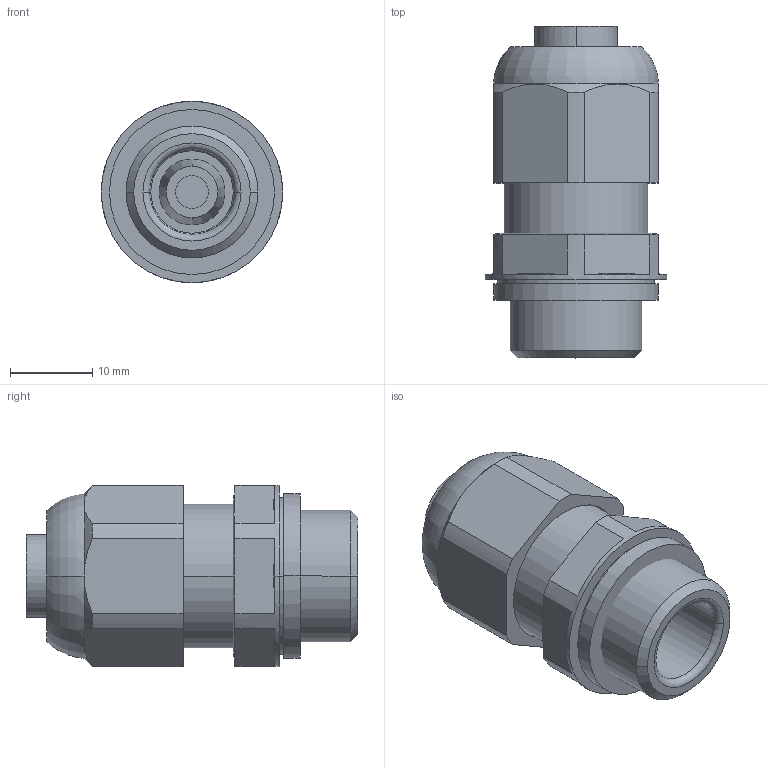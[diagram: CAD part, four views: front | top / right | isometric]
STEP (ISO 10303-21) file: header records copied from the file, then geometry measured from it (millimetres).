
FILE_DESCRIPTION (( 'STEP AP203' ), '1' );
FILE_NAME ('8161_5-M16-9-m_Stopfen.STEP', '2013-07-31T07:47:19', ( 'Admin' ), ( 'R. STAHL AG' ), 'SwSTEP 2.0', 'SolidWorks 2013', '' );
FILE_SCHEMA (( 'CONFIG_CONTROL_DESIGN' ));
Length unit declared in the file: millimetre
Products named in the file (6): 81_619_01_59_0_81_619_05_59_0; Anschlussgewindedichtung_M16; 8161_5-M16-9-m_Stopfen; 81_610_76_01_0_Stutzen; 81_610_76_01_0_Dichtung; 81_610_76_01_0_Hutmutter_Standard 
Assembly tree (5 placements, depth 2):
  8161_5-M16-9-m_Stopfen
    81_610_76_01_0_Stutzen
    81_610_76_01_0_Dichtung
    81_610_76_01_0_Hutmutter_Standard 
    81_619_01_59_0_81_619_05_59_0
    Anschlussgewindedichtung_M16
Bounding box: 22 x 40.23 x 22 mm (x, y, z)
Volume: 8410.7 mm3; surface area: 7976 mm2
Topology: 5 solids, 5 shells, 412 faces, 1088 edges, 673 vertices
Faces by surface type: cone 129, cylinder 102, plane 100, torus 53, bspline 28
Entity records: 13533 total; most frequent: CARTESIAN_POINT 2830, DIRECTION 2187, ORIENTED_EDGE 2148, EDGE_CURVE 1074, AXIS2_PLACEMENT_3D 860, VERTEX_POINT 673, CIRCLE 468, LINE 467
